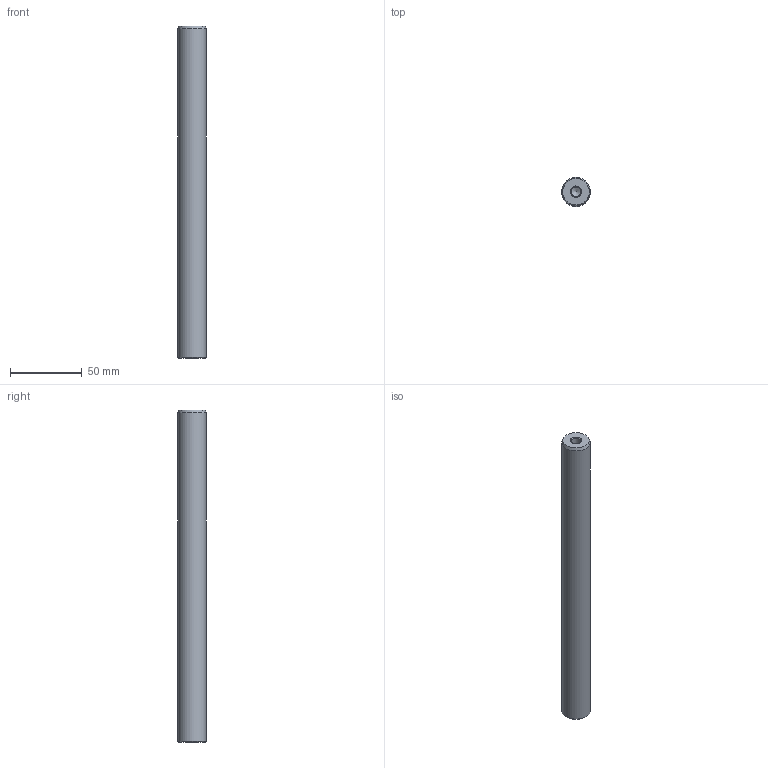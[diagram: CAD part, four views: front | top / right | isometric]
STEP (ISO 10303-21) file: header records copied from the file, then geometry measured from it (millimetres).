
FILE_DESCRIPTION( ( 'STEP AP214' ), '1' );
FILE_NAME( 'U:/Etudes/Top Solid/BIBLIO_Fournisseur/Colonnes UG/Ø20x232.step', '2004-12-22T12:39:59', ( ' ' ), ( ' ' ), 'XStep 1.0', ' ', ' ' );
FILE_SCHEMA( ( 'automotive_design' ) );
Length unit declared in the file: metre
Products named in the file (1): 1
Bounding box: 20 x 20 x 232 mm (x, y, z)
Volume: 71314.9 mm3; surface area: 16021.5 mm2
Topology: 1 solids, 1 shells, 13 faces, 27 edges, 16 vertices
Faces by surface type: cone 6, cylinder 5, plane 2
Full cylindrical faces by diameter (mm): 6.647 x4, 20 x1
Entity records: 382 total; most frequent: DIRECTION 52, CARTESIAN_POINT 40, AXIS2_PLACEMENT_3D 26, EDGE_LOOP 24, ORIENTED_EDGE 24, FACE_OUTER_BOUND 18, VERTEX_POINT 14, STYLED_ITEM 13
